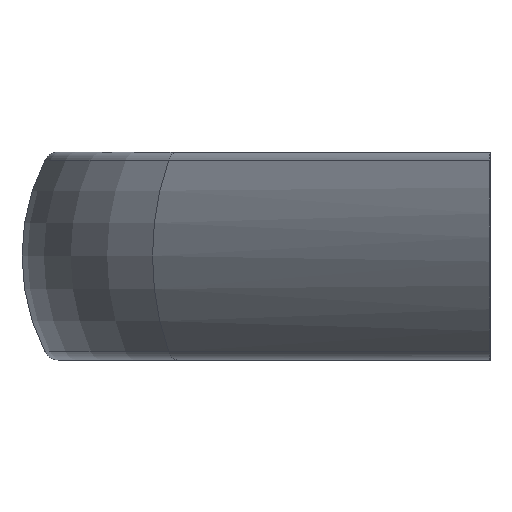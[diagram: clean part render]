
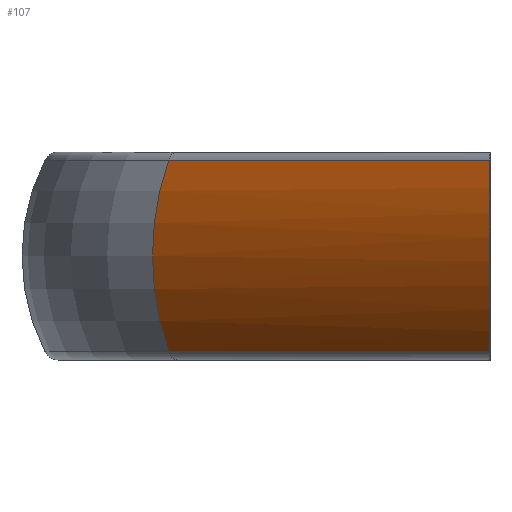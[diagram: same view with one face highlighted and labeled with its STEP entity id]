
A CAD part, left-side view. The second image highlights one B-rep face of the part: STEP entity #107.
In plain terms, the highlighted cylindrical face has radius 28.5 mm (diameter 57 mm), a partial arc.
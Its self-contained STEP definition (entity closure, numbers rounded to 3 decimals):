
#107 = ADVANCED_FACE( '', ( #181 ), #182, .T. );
#181 = FACE_OUTER_BOUND( '', #263, .T. );
#182 = CYLINDRICAL_SURFACE( '', #264, 28.5 );
#263 = EDGE_LOOP( '', ( #512, #513, #514, #515 ) );
#264 = AXIS2_PLACEMENT_3D( '', #516, #517, #518 );
#512 = ORIENTED_EDGE( '', *, *, #644, .F. );
#513 = ORIENTED_EDGE( '', *, *, #643, .T. );
#514 = ORIENTED_EDGE( '', *, *, #623, .F. );
#515 = ORIENTED_EDGE( '', *, *, #645, .F. );
#516 = CARTESIAN_POINT( '', ( -101.289, -21.867, 0. ) );
#517 = DIRECTION( '', ( -0.707, -0.707, 0. ) );
#518 = DIRECTION( '', ( -0.707, 0.707, 0. ) );
#623 = EDGE_CURVE( '', #748, #751, #752, .T. );
#643 = EDGE_CURVE( '', #777, #751, #779, .T. );
#644 = EDGE_CURVE( '', #777, #780, #781, .T. );
#645 = EDGE_CURVE( '', #780, #748, #782, .T. );
#748 = VERTEX_POINT( '', #904 );
#751 = VERTEX_POINT( '', #907 );
#752 = CIRCLE( '', #908, 28.5 );
#777 = VERTEX_POINT( '', #939 );
#779 = LINE( '', #941, #942 );
#780 = VERTEX_POINT( '', #943 );
#781 = ELLIPSE( '', #944, 40.305, 28.5 );
#782 = LINE( '', #945, #946 );
#904 = CARTESIAN_POINT( '', ( -72.117, 43.242, -12.906 ) );
#907 = CARTESIAN_POINT( '', ( -72.117, 43.242, 12.906 ) );
#908 = AXIS2_PLACEMENT_3D( '', #1088, #1089, #1090 );
#939 = CARTESIAN_POINT( '', ( -115.359, 0., 12.906 ) );
#941 = CARTESIAN_POINT( '', ( -119.257, -3.899, 12.906 ) );
#942 = VECTOR( '', #1136, 1000. );
#943 = CARTESIAN_POINT( '', ( -115.359, 0., -12.906 ) );
#944 = AXIS2_PLACEMENT_3D( '', #1137, #1138, #1139 );
#945 = CARTESIAN_POINT( '', ( -119.257, -3.899, -12.906 ) );
#946 = VECTOR( '', #1140, 1000. );
#1088 = CARTESIAN_POINT( '', ( -54.149, 25.274, 0. ) );
#1089 = DIRECTION( '', ( 0.707, 0.707, 0. ) );
#1090 = DIRECTION( '', ( 0., 0., -1. ) );
#1136 = DIRECTION( '', ( 0.707, 0.707, 0. ) );
#1137 = CARTESIAN_POINT( '', ( -79.423, 0., 0. ) );
#1138 = DIRECTION( '', ( 0., -1., 0. ) );
#1139 = DIRECTION( '', ( 1., 0., 0. ) );
#1140 = DIRECTION( '', ( 0.707, 0.707, 0. ) );
